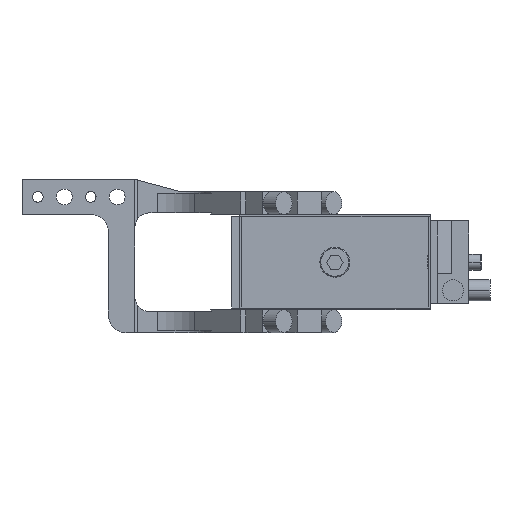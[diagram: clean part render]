
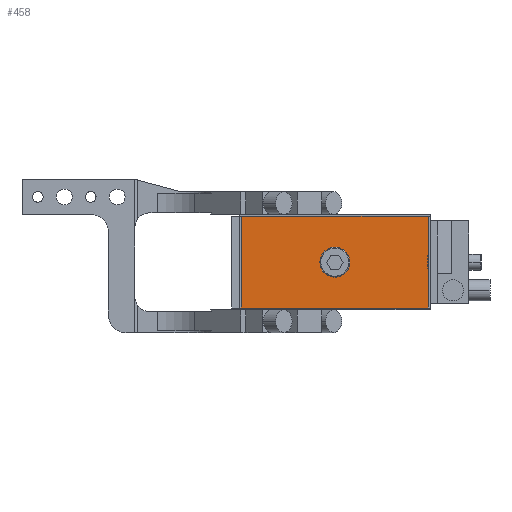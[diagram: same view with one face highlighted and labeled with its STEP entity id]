
A CAD part, left-side view. The second image highlights one B-rep face of the part: STEP entity #458.
In plain terms, the highlighted planar face has unit normal (-1, 0, 0).
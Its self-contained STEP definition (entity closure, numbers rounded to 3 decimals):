
#71 = DIRECTION ( 'NONE',  ( 0., 0., 1. ) ) ;
#450 = CIRCLE ( 'NONE', #3329, 8.5 ) ;
#458 = ADVANCED_FACE ( 'NONE', ( #9283, #11130 ), #7596, .T. ) ;
#480 = AXIS2_PLACEMENT_3D ( 'NONE', #7650, #2558, #3284 ) ;
#481 = EDGE_CURVE ( 'NONE', #2326, #2949, #9498, .T. ) ;
#562 = DIRECTION ( 'NONE',  ( 0., 1., 0. ) ) ;
#771 = DIRECTION ( 'NONE',  ( 0., 0., 1. ) ) ;
#1229 = VERTEX_POINT ( 'NONE', #11016 ) ;
#1232 = CARTESIAN_POINT ( 'NONE',  ( -276.5, -26.041, 4.075 ) ) ;
#1425 = CARTESIAN_POINT ( 'NONE',  ( -276.5, 19.5, 0. ) ) ;
#1450 = VERTEX_POINT ( 'NONE', #1993 ) ;
#1545 = CARTESIAN_POINT ( 'NONE',  ( -276.5, 0., 0. ) ) ;
#1589 = CARTESIAN_POINT ( 'NONE',  ( -276.5, -40.959, -4.075 ) ) ;
#1620 = EDGE_CURVE ( 'NONE', #1450, #9379, #10953, .T. ) ;
#1629 = DIRECTION ( 'NONE',  ( -1., 0., 0. ) ) ;
#1993 = CARTESIAN_POINT ( 'NONE',  ( -276.5, 19.5, 26. ) ) ;
#2057 = VECTOR ( 'NONE', #771, 1000. ) ;
#2265 = LINE ( 'NONE', #5816, #3694 ) ;
#2280 = DIRECTION ( 'NONE',  ( 0., 0., -1. ) ) ;
#2326 = VERTEX_POINT ( 'NONE', #1232 ) ;
#2558 = DIRECTION ( 'NONE',  ( -1., 0., 0. ) ) ;
#2644 = AXIS2_PLACEMENT_3D ( 'NONE', #1545, #11012, #71 ) ;
#2949 = VERTEX_POINT ( 'NONE', #1589 ) ;
#3284 = DIRECTION ( 'NONE',  ( 0., -1., 0. ) ) ;
#3329 = AXIS2_PLACEMENT_3D ( 'NONE', #4345, #1629, #8464 ) ;
#3459 = CARTESIAN_POINT ( 'NONE',  ( -276.5, -33.5, -26. ) ) ;
#3474 = VERTEX_POINT ( 'NONE', #9431 ) ;
#3520 = DIRECTION ( 'NONE',  ( 0., -1., 0. ) ) ;
#3694 = VECTOR ( 'NONE', #562, 1000. ) ;
#3796 = EDGE_CURVE ( 'NONE', #1229, #3474, #7906, .T. ) ;
#3882 = ORIENTED_EDGE ( 'NONE', *, *, #481, .F. ) ;
#4120 = ORIENTED_EDGE ( 'NONE', *, *, #1620, .T. ) ;
#4345 = CARTESIAN_POINT ( 'NONE',  ( -276.5, -33.5, 0. ) ) ;
#4475 = CARTESIAN_POINT ( 'NONE',  ( -276.5, 19.5, -26. ) ) ;
#5059 = EDGE_CURVE ( 'NONE', #2949, #2326, #450, .T. ) ;
#5435 = EDGE_CURVE ( 'NONE', #9379, #1229, #7776, .T. ) ;
#5816 = CARTESIAN_POINT ( 'NONE',  ( -276.5, -33.5, 26. ) ) ;
#6980 = EDGE_LOOP ( 'NONE', ( #8172, #8978, #10722, #4120 ) ) ;
#7596 = PLANE ( 'NONE',  #2644 ) ;
#7650 = CARTESIAN_POINT ( 'NONE',  ( -276.5, -33.5, 0. ) ) ;
#7734 = CARTESIAN_POINT ( 'NONE',  ( -276.5, -86.5, 0. ) ) ;
#7772 = VECTOR ( 'NONE', #3520, 1000. ) ;
#7776 = LINE ( 'NONE', #3459, #7772 ) ;
#7906 = LINE ( 'NONE', #7734, #2057 ) ;
#8172 = ORIENTED_EDGE ( 'NONE', *, *, #5435, .T. ) ;
#8434 = ORIENTED_EDGE ( 'NONE', *, *, #5059, .F. ) ;
#8464 = DIRECTION ( 'NONE',  ( 0., -1., 0. ) ) ;
#8978 = ORIENTED_EDGE ( 'NONE', *, *, #3796, .T. ) ;
#9283 = FACE_OUTER_BOUND ( 'NONE', #6980, .T. ) ;
#9379 = VERTEX_POINT ( 'NONE', #4475 ) ;
#9431 = CARTESIAN_POINT ( 'NONE',  ( -276.5, -86.5, 26. ) ) ;
#9498 = CIRCLE ( 'NONE', #480, 8.5 ) ;
#9863 = VECTOR ( 'NONE', #2280, 1000. ) ;
#10128 = EDGE_CURVE ( 'NONE', #3474, #1450, #2265, .T. ) ;
#10181 = EDGE_LOOP ( 'NONE', ( #8434, #3882 ) ) ;
#10722 = ORIENTED_EDGE ( 'NONE', *, *, #10128, .T. ) ;
#10953 = LINE ( 'NONE', #1425, #9863 ) ;
#11012 = DIRECTION ( 'NONE',  ( -1., 0., 0. ) ) ;
#11016 = CARTESIAN_POINT ( 'NONE',  ( -276.5, -86.5, -26. ) ) ;
#11130 = FACE_BOUND ( 'NONE', #10181, .T. ) ;
